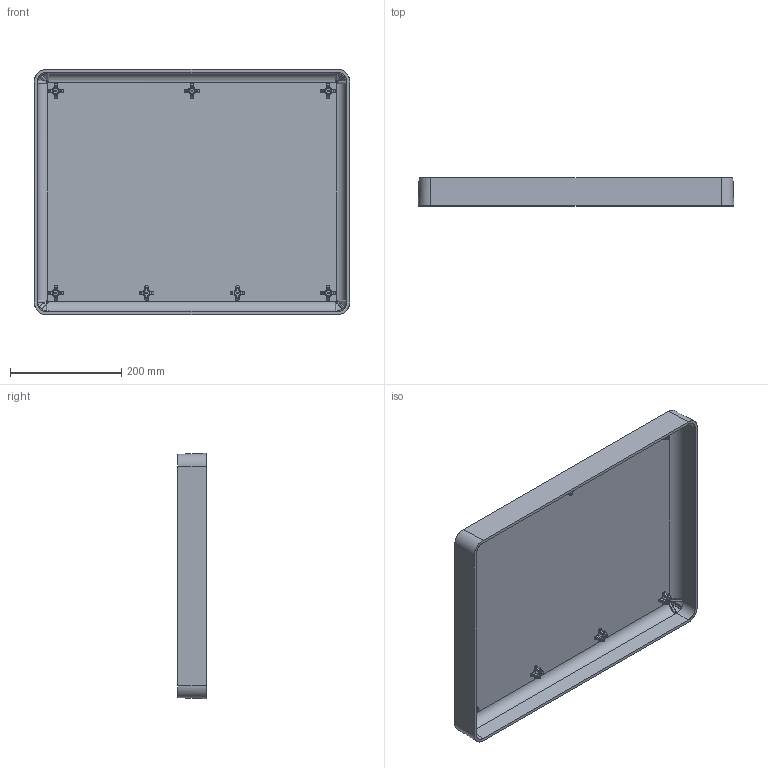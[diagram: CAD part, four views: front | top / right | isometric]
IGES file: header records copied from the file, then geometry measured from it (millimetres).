
Start section: SolidWorks IGES file using analytic representation for surfaces
Global section: file name: C:\working\Temporary Viewing Files\1602\1602-CASE-TOP.IGS; native system: SolidWorks 2005 by SolidWorks Corporation; preprocessor: SolidWorks 2005 by SolidWorks Corporation; author: akameda; date: 051005.140711; units: inch
Bounding box: 566.67 x 50.8 x 440.56 mm (x, y, z)
Surface area: 672749.8 mm2 (no closed solid volume)
Topology: 0 solids, 0 shells, 806 faces, 6365 edges, 6253 vertices
Faces by surface type: bspline 515, revolution 291
